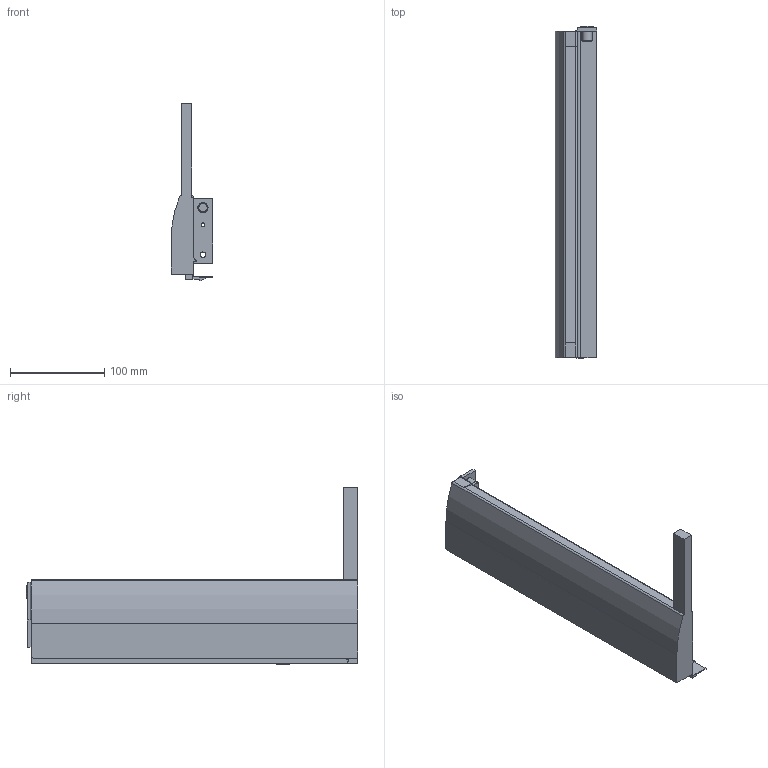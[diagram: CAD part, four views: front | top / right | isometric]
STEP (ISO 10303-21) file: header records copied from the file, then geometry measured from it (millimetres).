
FILE_DESCRIPTION (( 'STEP AP214' ), '1' );
FILE_NAME ('_IMOS_NOVA-Pro_Crystal_Dekor-H90_DL_NL350_LI.step', '2010-07-14T12:43:23', ( 'grass' ), ( '' ), 'SwSTEP 2.0', 'SolidWorks 2009', '' );
FILE_SCHEMA (( 'AUTOMOTIVE_DESIGN' ));
Length unit declared in the file: millimetre
Products named in the file (1): _IMOS_NOVA-Pro_Crystal_Dekor-H90_DL_NL350_LI
Bounding box: 44.3 x 352.7 x 188.49 mm (x, y, z)
Volume: 403308.6 mm3; surface area: 127276.6 mm2
Topology: 1 solids, 1 shells, 87 faces, 235 edges, 155 vertices
Faces by surface type: plane 55, cylinder 27, cone 4, bspline 1
Entity records: 2781 total; most frequent: CARTESIAN_POINT 499, ORIENTED_EDGE 470, DIRECTION 466, EDGE_CURVE 235, LINE 174, VECTOR 174, VERTEX_POINT 155, AXIS2_PLACEMENT_3D 146
